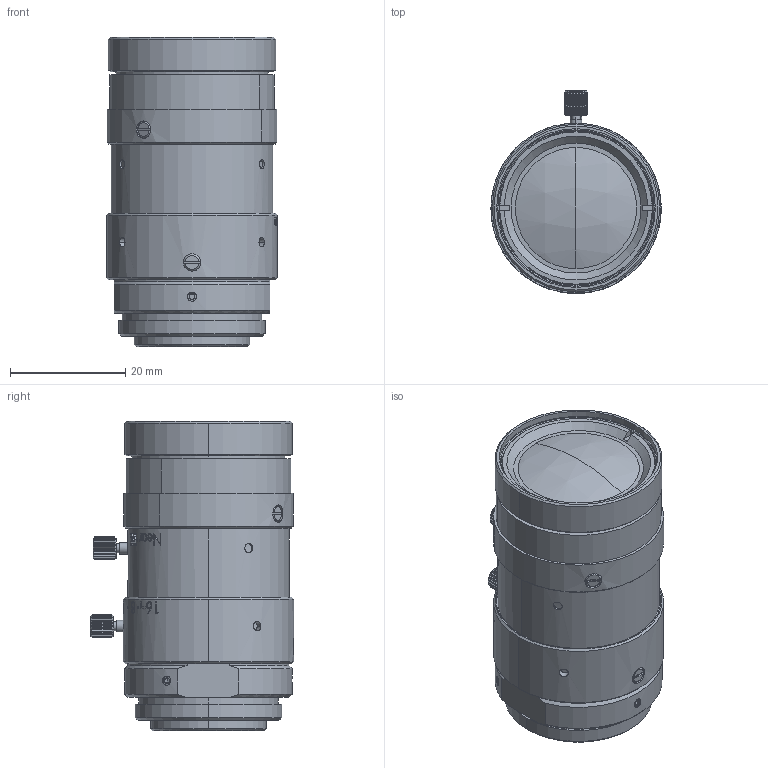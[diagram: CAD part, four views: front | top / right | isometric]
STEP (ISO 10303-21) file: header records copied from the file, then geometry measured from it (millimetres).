
FILE_DESCRIPTION (( 'STEP AP203' ), '1' );
FILE_NAME ('3d_ml-m0625ur_a001.STEP', '2019-06-24T02:26:15', ( '' ), ( '' ), 'SwSTEP 2.0', 'SolidWorks 2014', '' );
FILE_SCHEMA (( 'CONFIG_CONTROL_DESIGN' ));
Length unit declared in the file: millimetre
Products named in the file (1): 3d_ml-m0625ur_a001
Bounding box: 29.5 x 35.19 x 53.61 mm (x, y, z)
Volume: 32652.9 mm3; surface area: 7579.8 mm2
Topology: 1 solids, 1 shells, 814 faces, 2133 edges, 1397 vertices
Faces by surface type: cylinder 296, plane 280, bspline 162, cone 72, sphere 2, torus 2
Entity records: 41442 total; most frequent: CARTESIAN_POINT 23496, ORIENTED_EDGE 4266, DIRECTION 2800, EDGE_CURVE 2133, VERTEX_POINT 1397, AXIS2_PLACEMENT_3D 1072, B_SPLINE_CURVE_WITH_KNOTS 1058, EDGE_LOOP 890
